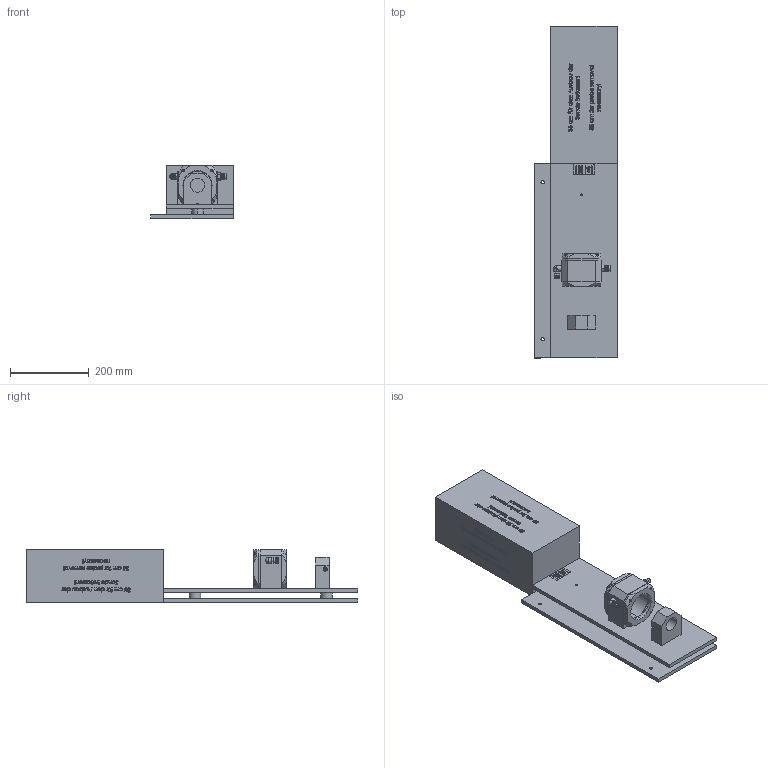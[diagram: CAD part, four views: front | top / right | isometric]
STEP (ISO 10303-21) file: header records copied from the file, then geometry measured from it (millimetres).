
FILE_DESCRIPTION (( 'STEP AP203' ), '1' );
FILE_NAME ('LZX866_TD_00000__001.STEP', '2023-04-28T07:04:16', ( '' ), ( '' ), 'SwSTEP 2.0', 'SolidWorks 2022', '' );
FILE_SCHEMA (( 'CONFIG_CONTROL_DESIGN' ));
Length unit declared in the file: millimetre
Products named in the file (20): HPM023_Montageplatte; HRR178_Druckring 2; LZX869-001_Freiraum Ein-Ausbau; HRB163_Distanzbuchse; HVQ810_Messkammer; EZD195_O-Ring 85 x 4; HDH676_Hinweisschild; HRR177_Druckring 1; countersunk flat head cross recess screw_iso_ISO 7046-1 - M6 x 35 - Z - 35N; HRR176_Stützring; HPP526_Anschlagplatte; EZD227_O-Ring 71,00 x 5,00 - EPDM; countersunk flat head cross recess screw_iso_ISO 7046-1 - M5 x 20 - Z --- 20N; EXA070_Einschraubverschraubung, weiß; NNG018_Zylinderschraube mit Innensechskant; EZD194_O-Ring 73,00 x 5,00 - EPDM; LZX866_TD_00000__001; BVQ844_Durchflußeinheit; HPM024_Trägerplatte; EXA058_Winkel-Einschraubverschraubung
Assembly tree (29 placements, depth 3):
  LZX866_TD_00000__001
    BVQ844_Durchflußeinheit
      HPM024_Trägerplatte
      HRB163_Distanzbuchse  x2
      HPM023_Montageplatte
      HVQ810_Messkammer
      HPP526_Anschlagplatte
      HRR176_Stützring
      HRR177_Druckring 1
      HRR178_Druckring 2
      EZD194_O-Ring 73,00 x 5,00 - EPDM
      EZD195_O-Ring 85 x 4
      EZD227_O-Ring 71,00 x 5,00 - EPDM
      HDH676_Hinweisschild
      EXA058_Winkel-Einschraubverschraubung
      EXA070_Einschraubverschraubung, weiß
      countersunk flat head cross recess screw_iso_ISO 7046-1 - M5 x 20 - Z --- 20N  x6
      countersunk flat head cross recess screw_iso_ISO 7046-1 - M6 x 35 - Z - 35N  x2
      NNG018_Zylinderschraube mit Innensechskant  x4
    LZX869-001_Freiraum Ein-Ausbau
Bounding box: 210 x 845 x 135 mm (x, y, z)
Volume: 10506989.2 mm3; surface area: 831032.5 mm2
Topology: 28 solids, 28 shells, 3660 faces, 9609 edges, 6274 vertices
Faces by surface type: plane 1589, bspline 1554, cylinder 257, cone 174, torus 52, sphere 34
Entity records: 175668 total; most frequent: CARTESIAN_POINT 100500, ORIENTED_EDGE 17710, DIRECTION 9884, EDGE_CURVE 8855, VERTEX_POINT 5841, LINE 5026, VECTOR 5026, EDGE_LOOP 3730
